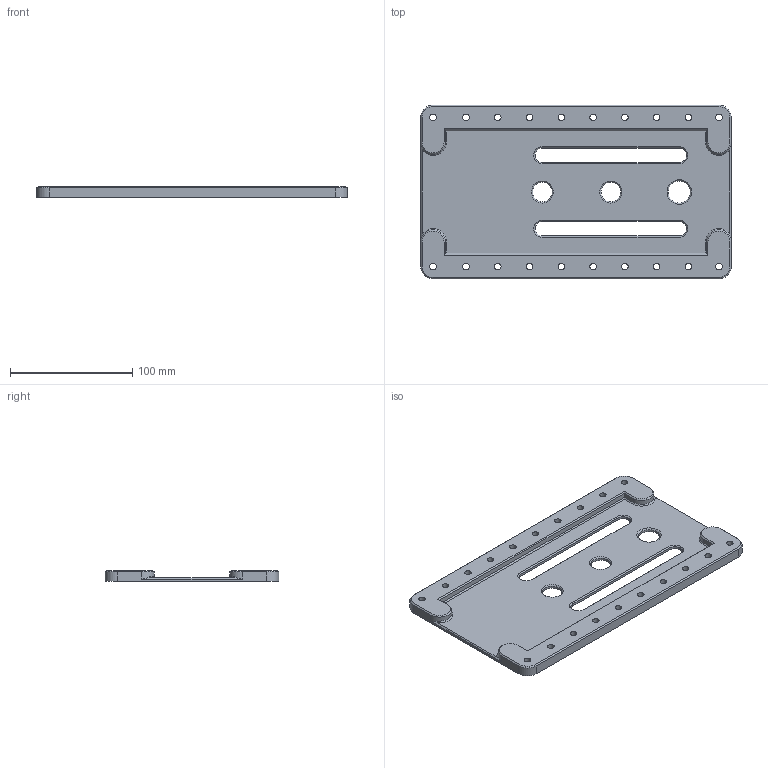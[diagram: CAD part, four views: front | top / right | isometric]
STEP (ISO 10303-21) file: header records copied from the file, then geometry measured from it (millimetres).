
FILE_DESCRIPTION(/* description */ (''),/* implementation_level */ '2;1');
FILE_NAME(/* name */ 'top-layer.step',/* time_stamp */ '2026-06-03T23:55:54+01:00',/* author */ (''),/* organization */ (''),/* preprocessor_version */ 'ST-DEVELOPER v20.1',/* originating_system */ 'Autodesk Translation Framework v15.8.0.0',/* authorisation */ '');
FILE_SCHEMA (('AUTOMOTIVE_DESIGN { 1 0 10303 214 3 1 1 }'));
Length unit declared in the file: millimetre
Products named in the file (1): top-layer
Bounding box: 254 x 142 x 9 mm (x, y, z)
Volume: 161535.8 mm3; surface area: 77006 mm2
Topology: 1 solids, 1 shells, 96 faces, 243 edges, 149 vertices
Faces by surface type: plane 42, cylinder 35, cone 19
Full cylindrical faces by diameter (mm): 5.3 x20, 16 x2, 18 x1
Entity records: 3008 total; most frequent: DIRECTION 521, CARTESIAN_POINT 518, ORIENTED_EDGE 486, EDGE_CURVE 243, AXIS2_PLACEMENT_3D 190, VERTEX_POINT 149, EDGE_LOOP 146, LINE 141
